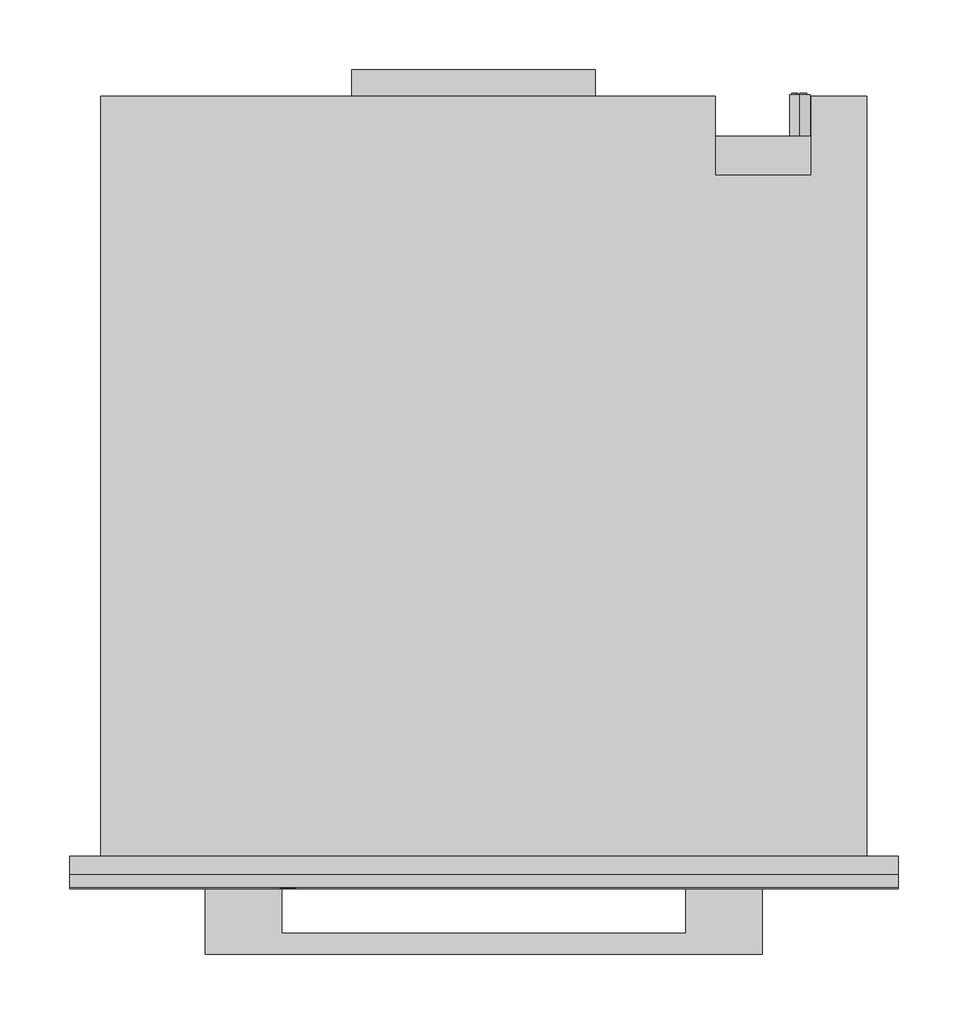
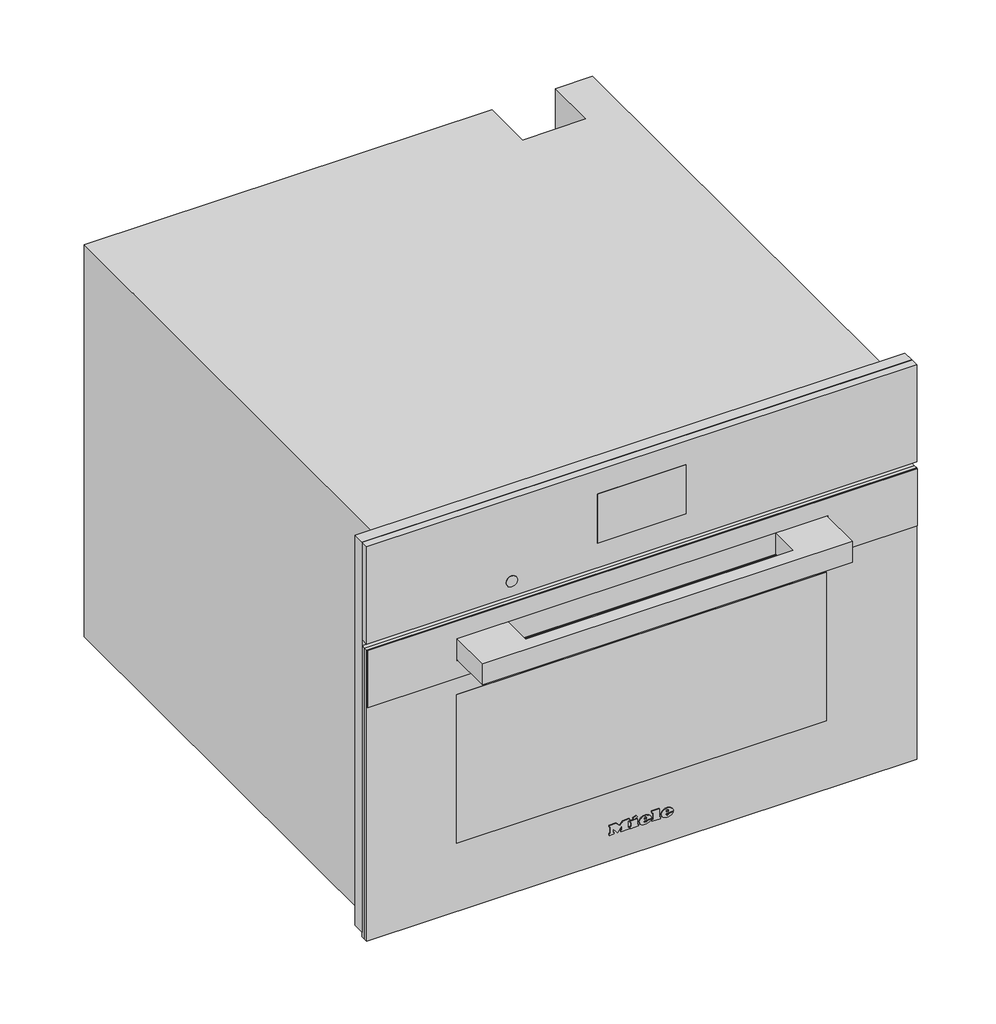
# Not in any storey: 1 proxy.
"""IFC4 building model written with IfcOpenShell, lengths in millimetres."""

import ifcopenshell
import ifcopenshell.guid

model = None  # the IFC model being written
_history = None  # IfcOwnerHistory: only IFC2X3 demands one
_inside = {}  # id of a spatial element -> (the spatial element, [elements in it])
_under = {}  # id of a project, library or spatial element -> (it, [spatial elements below it])
_declared = {}  # id of a project -> (the project, [libraries it declares])
_typed = {}  # id of a type object -> (the type object, [elements of that type])
_made_of = {}  # id of a material, layer set ... -> (it, [elements and type objects made of it])


def new_model(schema):
    """Start an empty IFC model of exactly this schema.

    Asked for "IFC4X3", IfcOpenShell would pick the latest addendum, in which some entities
    have other attributes; the version numbers below select the first issue.
    IFC2X3 requires an IfcOwnerHistory on every rooted entity: one is made here for all.
    """
    global model, _history
    if schema == "IFC4X3":
        model = ifcopenshell.file(schema_version=(4, 3, 0, 0))
    else:
        model = ifcopenshell.file(schema=schema)
    _inside.clear()
    _under.clear()
    _declared.clear()
    _typed.clear()
    _made_of.clear()
    _history = None
    if model.schema == "IFC2X3":
        org = make("IfcOrganization", Name="unknown")
        user = make(
            "IfcPersonAndOrganization",
            ThePerson=make("IfcPerson", FamilyName="unknown"),
            TheOrganization=org,
        )
        app = make(
            "IfcApplication",
            ApplicationDeveloper=org,
            Version="unknown",
            ApplicationFullName="unknown",
            ApplicationIdentifier="unknown",
        )
        _history = make(
            "IfcOwnerHistory",
            OwningUser=user,
            OwningApplication=app,
            ChangeAction="ADDED",
            CreationDate=0,
        )
    return model


def make(cls, **values):
    """One entity of the class cls with the attributes given. An attribute that is None is left unset."""
    return model.create_entity(
        cls, **{name: value for name, value in values.items() if value is not None}
    )


def rooted(cls, **values):
    """An entity with a GlobalId (a new one), such as an element, a storey or a relation."""
    return make(cls, GlobalId=ifcopenshell.guid.new(), OwnerHistory=_history, **values)


def si_unit(unit_type, name, prefix=None):
    """IfcSIUnit, for example si_unit("LENGTHUNIT", "METRE", prefix="MILLI")."""
    return make("IfcSIUnit", UnitType=unit_type, Prefix=prefix, Name=name)


def assignment(units):
    """IfcUnitAssignment: the units of a project."""
    return None if units is None else make("IfcUnitAssignment", Units=units)


def point(xyz):
    """IfcCartesianPoint."""
    return None if xyz is None else make("IfcCartesianPoint", Coordinates=xyz)


def direction(xyz):
    """IfcDirection."""
    return None if xyz is None else make("IfcDirection", DirectionRatios=xyz)


def frame(location, z_axis=None, x_axis=None):
    """IfcAxis2Placement3D, a coordinate frame: its origin and axes. An axis left out is left unset."""
    return make(
        "IfcAxis2Placement3D",
        Location=point(location),
        Axis=direction(z_axis),
        RefDirection=direction(x_axis),
    )


def frame_2d(location, x_axis=None):
    """IfcAxis2Placement2D, a coordinate frame in the plane: its origin and x axis."""
    return make(
        "IfcAxis2Placement2D", Location=point(location), RefDirection=direction(x_axis)
    )


def origin():
    """The frame at (0, 0, 0) with its axes left unset."""
    return frame((0.0, 0.0, 0.0))


def place(relative_to, where):
    """IfcLocalPlacement: puts the frame where relative to a parent placement (None: the world)."""
    return make(
        "IfcLocalPlacement", PlacementRelTo=relative_to, RelativePlacement=where
    )


def context(
    kind, dimensions, precision=None, world=None, true_north=None, identifier=None
):
    """IfcGeometricRepresentationContext, for example the 3D "Model" context."""
    return make(
        "IfcGeometricRepresentationContext",
        ContextIdentifier=identifier,
        ContextType=kind,
        CoordinateSpaceDimension=dimensions,
        Precision=precision,
        WorldCoordinateSystem=world,
        TrueNorth=true_north,
    )


def project(units=None, contexts=None):
    """IfcProject with its units and contexts."""
    return rooted(
        "IfcProject",
        Name="project",
        RepresentationContexts=contexts,
        UnitsInContext=assignment(units),
    )


def spatial(cls, under=None, at=None, **own):
    """A site, building, storey or space (cls), placed at a placement, below another one or the project."""
    s = rooted(cls, ObjectPlacement=at, **own)
    if under is not None:
        _under.setdefault(under.id(), (under, []))[1].append(s)
    return s


def polyline(points):
    """IfcPolyline through the points."""
    return make("IfcPolyline", Points=[point(p) for p in points])


def circle_curve(where, radius):
    """IfcCircle in the frame where."""
    return make("IfcCircle", Position=where, Radius=radius)


def ellipse_curve(where, semi_axis1, semi_axis2):
    """IfcEllipse in the frame where."""
    return make(
        "IfcEllipse", Position=where, SemiAxis1=semi_axis1, SemiAxis2=semi_axis2
    )


def trimmed(basis, trim1, trim2, sense, master):
    """IfcTrimmedCurve: the piece of a basis curve between two trims."""
    return make(
        "IfcTrimmedCurve",
        BasisCurve=basis,
        Trim1=trim1,
        Trim2=trim2,
        SenseAgreement=sense,
        MasterRepresentation=master,
    )


def segment(curve, same_sense, transition):
    """IfcCompositeCurveSegment."""
    return make(
        "IfcCompositeCurveSegment",
        Transition=transition,
        SameSense=same_sense,
        ParentCurve=curve,
    )


def composite_curve(segments, self_intersect=None):
    """IfcCompositeCurve: segments joined end to end."""
    return make("IfcCompositeCurve", Segments=segments, SelfIntersect=self_intersect)


def outline(outer, holes=None, kind="AREA"):
    """IfcArbitraryClosedProfileDef: a profile drawn as a closed curve; with holes, ...WithVoids."""
    if holes is None:
        return make("IfcArbitraryClosedProfileDef", ProfileType=kind, OuterCurve=outer)
    return make(
        "IfcArbitraryProfileDefWithVoids",
        ProfileType=kind,
        OuterCurve=outer,
        InnerCurves=holes,
    )


def extrude(swept, where, along, depth):
    """IfcExtrudedAreaSolid: the profile swept, set in the frame where, extruded along a direction by depth."""
    return make(
        "IfcExtrudedAreaSolid",
        SweptArea=swept,
        Position=where,
        ExtrudedDirection=direction(along),
        Depth=depth,
    )


def faces_of(points, faces, orient=None, outer=None):
    """IfcFace entities. A face is a list of loops; a loop is a list of indices into points, from 0.

    orient and outer hold one flag for each loop. By default every Orientation is true, the
    first loop of a face is its IfcFaceOuterBound and the others are IfcFaceBound.
    """
    made = []
    for i, loops in enumerate(faces):
        bounds = []
        for j, loop in enumerate(loops):
            is_outer = j == 0 if outer is None else outer[i][j]
            bounds.append(
                make(
                    "IfcFaceOuterBound" if is_outer else "IfcFaceBound",
                    Bound=make("IfcPolyLoop", Polygon=[points[k] for k in loop]),
                    Orientation=True if orient is None else orient[i][j],
                )
            )
        made.append(make("IfcFace", Bounds=bounds))
    return made


def faceted_brep(points, faces, orient=None, outer=None, voids=None):
    """IfcFacetedBrep: a solid bounded by flat faces; with voids (closed shells), ...WithVoids."""
    shared = [point(p) for p in points]
    hull = make("IfcClosedShell", CfsFaces=faces_of(shared, faces, orient, outer))
    if voids is None:
        return make("IfcFacetedBrep", Outer=hull)
    return make(
        "IfcFacetedBrepWithVoids",
        Outer=hull,
        Voids=[
            make(cls, CfsFaces=faces_of(shared, fs, o, b)) for cls, fs, o, b in voids
        ],
    )


def shape(context_of_items, identifier, shape_type, items):
    """IfcShapeRepresentation: the items that make up one representation, for example the "Body"."""
    return make(
        "IfcShapeRepresentation",
        ContextOfItems=context_of_items,
        RepresentationIdentifier=identifier,
        RepresentationType=shape_type,
        Items=items,
    )


def source(mapping_origin, context_of_items, identifier, shape_type, items):
    """IfcRepresentationMap: a shape defined once, which mapped items show again and again."""
    return make(
        "IfcRepresentationMap",
        MappingOrigin=mapping_origin,
        MappedRepresentation=shape(context_of_items, identifier, shape_type, items),
    )


def transform(
    local_origin,
    x_axis=None,
    y_axis=None,
    z_axis=None,
    scale=None,
    scale2=None,
    scale3=None,
    uniform=True,
):
    """IfcCartesianTransformationOperator3D, or its non-uniform kind. x_axis, y_axis, z_axis: its Axis1, 2, 3."""
    if uniform:
        return make(
            "IfcCartesianTransformationOperator3D",
            Axis1=direction(x_axis),
            Axis2=direction(y_axis),
            LocalOrigin=point(local_origin),
            Scale=scale,
            Axis3=direction(z_axis),
        )
    return make(
        "IfcCartesianTransformationOperator3DnonUniform",
        Axis1=direction(x_axis),
        Axis2=direction(y_axis),
        LocalOrigin=point(local_origin),
        Scale=scale,
        Axis3=direction(z_axis),
        Scale2=scale2,
        Scale3=scale3,
    )


def mapped(mapping_source, mapping_target):
    """IfcMappedItem: shows the shape of a source again, moved by a transform."""
    return make(
        "IfcMappedItem", MappingSource=mapping_source, MappingTarget=mapping_target
    )


def made_of(thing, what):
    """Note that an element or type object is made of a material, layer set ...; save() writes the relation."""
    if what is not None:
        _made_of.setdefault(what.id(), (what, []))[1].append(thing)
    return thing


def element(
    cls,
    number,
    at=None,
    inside=None,
    cuts=None,
    type_object=None,
    material=None,
    context=None,
    identifier="Body",
    shape_type=None,
    held_by="IfcProductDefinitionShape",
    body=None,
    shapes=None,
    **own,
):
    """One element of the class cls, such as IfcWall. Its Tag is "e" and its number.

    at: its placement. inside: the storey or other place that contains it. cuts: it is an
    opening in that element (IfcRelVoidsElement). A single representation is given by context,
    identifier, shape_type and body (its items); several are given by shapes. held_by: the class
    of the entity that holds the representations. save() writes the other relations.
    """
    e = rooted(cls, Tag="e%d" % number, ObjectPlacement=at, **own)
    if body is not None:
        shapes = [shape(context, identifier, shape_type, body)]
    if shapes is not None:
        e.Representation = make(held_by, Representations=shapes)
    if inside is not None:
        _inside.setdefault(inside.id(), (inside, []))[1].append(e)
    if cuts is not None:
        rooted(
            "IfcRelVoidsElement", RelatingBuildingElement=cuts, RelatedOpeningElement=e
        )
    if type_object is not None:
        _typed.setdefault(type_object.id(), (type_object, []))[1].append(e)
    return made_of(e, material)


def aggregate(whole, parts):
    """IfcRelAggregates: a whole, such as a stair, and the parts it consists of."""
    return rooted("IfcRelAggregates", RelatingObject=whole, RelatedObjects=parts)


def save(model, path):
    """Write the relations noted so far, then the file.

    IfcRelAggregates (storeys below a building ...), IfcRelContainedInSpatialStructure (elements
    in a storey), IfcRelDefinesByType, IfcRelAssociatesMaterial and IfcRelDeclares: one each for
    every whole, place, type object, material and project.
    """
    for whole, parts in _under.values():
        aggregate(whole, parts)
    for where, things in _inside.values():
        rooted(
            "IfcRelContainedInSpatialStructure",
            RelatedElements=things,
            RelatingStructure=where,
        )
    for kind, things in _typed.values():
        rooted("IfcRelDefinesByType", RelatedObjects=things, RelatingType=kind)
    for what, things in _made_of.values():
        rooted("IfcRelAssociatesMaterial", RelatedObjects=things, RelatingMaterial=what)
    for by, libraries in _declared.values():
        rooted("IfcRelDeclares", RelatingContext=by, RelatedDefinitions=libraries)
    model.write(path)


def plane_surface(at):
    """IfcPlane: the flat surface through the origin of the frame at, square to its z axis."""
    return make("IfcPlane", Position=at)


def cylinder_surface(at, radius):
    """IfcCylindricalSurface: all points at the distance radius from the z axis of the frame at."""
    return make("IfcCylindricalSurface", Position=at, Radius=radius)


def revolved_surface(curve, axis_point, axis_direction):
    """IfcSurfaceOfRevolution: the curve turned about the line through axis_point along axis_direction."""
    return make(
        "IfcSurfaceOfRevolution",
        SweptCurve=make("IfcArbitraryOpenProfileDef", ProfileType="CURVE", Curve=curve),
        AxisPosition=make("IfcAxis1Placement", Location=point(axis_point), Axis=direction(axis_direction)),
    )


def extruded_surface(curve, direction_of_extrusion, depth):
    """IfcSurfaceOfLinearExtrusion: the curve pushed along a direction by depth."""
    return make(
        "IfcSurfaceOfLinearExtrusion",
        SweptCurve=make("IfcArbitraryOpenProfileDef", ProfileType="CURVE", Curve=curve),
        ExtrudedDirection=direction(direction_of_extrusion),
        Depth=depth,
    )


def advanced_brep(points, edges, surfaces, faces):
    """IfcAdvancedBrep: a solid bounded by faces that lie on surfaces and meet in shared edges.

    An edge is (start, end): straight between two places in points (the first is 0);
    or (start, end, curve); or (start, end, curve, False) where it runs against its curve.
    A face is (place in surfaces, loops), or (place, loops, False) where it looks against
    its surface's normal. A loop lists edges by number (the first is 1), with a minus sign
    where the edge is run from its end to its start. The first loop is the outer one.
    """
    corners = [point(p) for p in points]
    vertices = [make("IfcVertexPoint", VertexGeometry=c) for c in corners]
    made = []
    for start, end, *more in edges:
        made.append(
            make(
                "IfcEdgeCurve",
                EdgeStart=vertices[start],
                EdgeEnd=vertices[end],
                EdgeGeometry=more[0] if more else make("IfcPolyline", Points=[corners[start], corners[end]]),
                SameSense=more[1] if len(more) > 1 else True,
            )
        )
    hull = []
    for where, loops, *sense in faces:
        bounds = []
        for j, loop in enumerate(loops):
            ring = [make("IfcOrientedEdge", EdgeElement=made[abs(k) - 1], Orientation=k > 0) for k in loop]
            bounds.append(
                make(
                    "IfcFaceOuterBound" if j == 0 else "IfcFaceBound",
                    Bound=make("IfcEdgeLoop", EdgeList=ring),
                    Orientation=True,
                )
            )
        hull.append(make("IfcAdvancedFace", Bounds=bounds, FaceSurface=surfaces[where], SameSense=sense[0] if sense else True))
    return make("IfcAdvancedBrep", Outer=make("IfcClosedShell", CfsFaces=hull))


def specialty_equipment_7466eaa1(model_context):
    return source(origin(), model_context, "Body", "SolidModel", [
        extrude(outline(polyline([(455.0, 297.5), (455.0, -297.5), (9.0, -297.5), (9.0, 297.5), (455.0, 297.5)]), holes=[polyline([(344.0, -272.5), (344.0, 272.5), (27.0, 272.5), (27.0, -272.5), (344.0, -272.5)])]), frame((0.0, -13.0, 0.0), z_axis=(0.0, 1.0, 0.0), x_axis=(0.0, 0.0, 1.0)), (0.0, 0.0, 1.0), 13.0),
        extrude(outline(polyline([(-95.0, 565.0), (80.0, 565.0), (80.0, 546.0), (-95.0, 546.0), (-95.0, 565.0)])), frame((0.0, 0.0, 260.0), z_axis=(0.0, 0.0, 1.0), x_axis=(1.0, 0.0, 0.0)), (0.0, 0.0, 1.0), 1.0),
        advanced_brep(
        [(227.0, 547.0, 255.5), (227.0, 547.0, 240.5), (221.4098301, 547.0, 243.0), (225.5, 547.0, 243.0), (225.5, 547.0, 253.0), (224.4955303, 547.0, 253.0), (224.4955303, 547.0, 244.0), (221.0315043, 547.0, 244.0), (221.0315043, 547.0, 243.4582978), (232.0, 547.0, 243.0), (232.0, 547.0, 253.0), (227.0, 547.0, 253.0), (227.0, 547.0, 252.0), (231.0, 547.0, 252.0), (231.0, 547.0, 248.5), (228.0, 547.0, 248.5), (228.0, 547.0, 247.5), (231.0, 547.0, 247.5), (231.0, 547.0, 244.0), (227.0, 547.0, 244.0), (227.0, 547.0, 243.0), (227.0, 517.0, 240.5), (227.0, 517.0, 255.5), (232.0, 548.0, 253.0), (232.0, 548.0, 243.0), (227.0, 548.0, 243.0), (227.0, 548.0, 244.0), (231.0, 548.0, 244.0), (231.0, 548.0, 247.5), (228.0, 548.0, 247.5), (228.0, 548.0, 248.5), (231.0, 548.0, 248.5), (231.0, 548.0, 252.0), (227.0, 548.0, 252.0), (227.0, 548.0, 253.0), (225.5, 548.0, 243.0), (221.0315043, 548.0, 243.0), (221.0315043, 548.0, 244.0), (224.4955303, 548.0, 244.0), (224.4955303, 548.0, 253.0), (225.5, 548.0, 253.0), (221.0315043, 547.0, 243.0)],
        [
            (0, 1, circle_curve(frame((227.0, 547.0, 248.0), z_axis=(0.0, 1.0, 0.0), x_axis=(0.0, 0.0, 1.0)), 7.5)),
            (1, 2, circle_curve(frame((227.0, 547.0, 248.0), z_axis=(0.0, 1.0, 0.0), x_axis=(0.0, 0.0, 1.0)), 7.5)),
            (2, 3),
            (3, 4),
            (4, 5),
            (5, 6),
            (6, 7),
            (7, 8),
            (8, 0, circle_curve(frame((227.0, 547.0, 248.0), z_axis=(0.0, 1.0, 0.0), x_axis=(0.0, 0.0, 1.0)), 7.5)),
            (9, 10),
            (10, 11),
            (11, 12),
            (12, 13),
            (13, 14),
            (14, 15),
            (15, 16),
            (16, 17),
            (17, 18),
            (18, 19),
            (19, 20),
            (20, 9),
            (21, 22, circle_curve(frame((227.0, 517.0, 248.0), z_axis=(0.0, -1.0, 0.0), x_axis=(0.0, 0.0, 1.0)), 7.5)),
            (22, 21, circle_curve(frame((227.0, 517.0, 248.0), z_axis=(0.0, -1.0, 0.0), x_axis=(0.0, 0.0, 1.0)), 7.5)),
            (0, 22),
            (21, 1),
            (8, 2, circle_curve(frame((227.0, 547.0, 248.0), z_axis=(0.0, -1.0, 0.0), x_axis=(0.0, 0.0, 1.0)), 7.5)),
            (23, 24),
            (24, 25),
            (25, 26),
            (26, 27),
            (27, 28),
            (28, 29),
            (29, 30),
            (30, 31),
            (31, 32),
            (32, 33),
            (33, 34),
            (34, 23),
            (35, 36),
            (36, 37),
            (37, 38),
            (38, 39),
            (39, 40),
            (40, 35),
            (8, 41),
            (41, 2),
            (23, 10),
            (9, 24),
            (20, 25),
            (19, 26),
            (18, 27),
            (17, 28),
            (16, 29),
            (15, 30),
            (14, 31),
            (13, 32),
            (12, 33),
            (11, 34),
            (35, 3),
            (41, 36),
            (7, 37),
            (6, 38),
            (5, 39),
            (4, 40),
        ],
        [
            plane_surface(frame((227.0, 547.0, 255.5), z_axis=(0.0, 1.0, 0.0), x_axis=(1.0, 0.0, 0.0))),
            plane_surface(frame((227.0, 517.0, 255.5), z_axis=(0.0, -1.0, 0.0), x_axis=(-1.0, 0.0, 0.0))),
            cylinder_surface(frame((227.0, 547.0, 248.0), z_axis=(0.0, -1.0, 0.0), x_axis=(0.0, 0.0, 1.0)), 7.5),
            plane_surface(frame((232.0, 548.0, 253.0), z_axis=(0.0, 1.0, 0.0), x_axis=(0.0, 0.0, -1.0))),
            plane_surface(frame((232.0, 547.0, 253.0), z_axis=(0.0, -1.0, 0.0), x_axis=(0.0, 0.0, 1.0))),
            plane_surface(frame((232.0, 548.0, 253.0), z_axis=(1.0, 0.0, 0.0), x_axis=(0.0, -1.0, 0.0))),
            plane_surface(frame((232.0, 548.0, 243.0), z_axis=(0.0, 0.0, -1.0), x_axis=(0.0, -1.0, 0.0))),
            plane_surface(frame((227.0, 548.0, 243.0), z_axis=(-1.0, 0.0, 0.0), x_axis=(0.0, -1.0, 0.0))),
            plane_surface(frame((227.0, 548.0, 244.0), z_axis=(0.0, 0.0, 1.0), x_axis=(0.0, -1.0, 0.0))),
            plane_surface(frame((231.0, 548.0, 244.0), z_axis=(-1.0, 0.0, 0.0), x_axis=(0.0, -1.0, 0.0))),
            plane_surface(frame((231.0, 548.0, 247.5), z_axis=(0.0, 0.0, -1.0), x_axis=(0.0, -1.0, 0.0))),
            plane_surface(frame((228.0, 548.0, 247.5), z_axis=(-1.0, 0.0, 0.0), x_axis=(0.0, -1.0, 0.0))),
            plane_surface(frame((228.0, 548.0, 248.5), z_axis=(0.0, 0.0, 1.0), x_axis=(0.0, -1.0, 0.0))),
            plane_surface(frame((231.0, 548.0, 248.5), z_axis=(-1.0, 0.0, 0.0), x_axis=(0.0, -1.0, 0.0))),
            plane_surface(frame((231.0, 548.0, 252.0), z_axis=(0.0, 0.0, -1.0), x_axis=(0.0, -1.0, 0.0))),
            plane_surface(frame((227.0, 548.0, 252.0), z_axis=(-1.0, 0.0, 0.0), x_axis=(0.0, -1.0, 0.0))),
            plane_surface(frame((227.0, 548.0, 253.0), z_axis=(0.0, 0.0, 1.0), x_axis=(0.0, -1.0, 0.0))),
            plane_surface(frame((225.5, 548.0, 243.0), z_axis=(0.0, 0.0, -1.0), x_axis=(0.0, -1.0, 0.0))),
            plane_surface(frame((221.0315043, 548.0, 243.0), z_axis=(-1.0, 0.0, 0.0), x_axis=(0.0, -1.0, 0.0))),
            plane_surface(frame((221.0315043, 548.0, 244.0), z_axis=(0.0, 0.0, 1.0), x_axis=(0.0, -1.0, 0.0))),
            plane_surface(frame((224.4955303, 548.0, 244.0), z_axis=(-1.0, 0.0, 0.0), x_axis=(0.0, -1.0, 0.0))),
            plane_surface(frame((224.4955303, 548.0, 253.0), z_axis=(0.0, 0.0, 1.0), x_axis=(0.0, -1.0, 0.0))),
            plane_surface(frame((225.5, 548.0, 253.0), z_axis=(1.0, 0.0, 0.0), x_axis=(0.0, -1.0, 0.0))),
        ],
        [
            (0, [[1, 2, 3, 4, 5, 6, 7, 8, 9], [10, 11, 12, 13, 14, 15, 16, 17, 18, 19, 20, 21]]),
            (1, [[22, 23]]),
            (2, [[-1, 24, -22, 25]]),
            (2, [[-23, -24, -9, 26, -2, -25]]),
            (3, [[27, 28, 29, 30, 31, 32, 33, 34, 35, 36, 37, 38]]),
            (3, [[39, 40, 41, 42, 43, 44]]),
            (4, [[45, 46, -26]]),
            (5, [[-27, 47, -10, 48]]),
            (6, [[-28, -48, -21, 49]]),
            (7, [[-29, -49, -20, 50]]),
            (8, [[-30, -50, -19, 51]]),
            (9, [[-31, -51, -18, 52]]),
            (10, [[-32, -52, -17, 53]]),
            (11, [[-33, -53, -16, 54]]),
            (12, [[-34, -54, -15, 55]]),
            (13, [[-35, -55, -14, 56]]),
            (14, [[-36, -56, -13, 57]]),
            (15, [[-37, -57, -12, 58]]),
            (16, [[-38, -58, -11, -47]]),
            (17, [[-39, 59, -3, -46, 60]]),
            (18, [[-40, -60, -45, -8, 61]]),
            (19, [[-41, -61, -7, 62]]),
            (20, [[-42, -62, -6, 63]]),
            (21, [[-43, -63, -5, 64]]),
            (22, [[-44, -64, -4, -59]]),
        ],
    ),
        faceted_brep([(-275.0, 546.0, 0.0), (-275.0, 546.0, 448.0), (166.0, 546.0, 448.0), (166.0, 546.0, 0.0), (235.0, 546.0, 448.0), (275.0, 546.0, 448.0), (275.0, 546.0, 338.0), (235.0, 546.0, 338.0), (275.0, 0.0, 448.0), (-275.0, 0.0, 448.0), (-275.0, 0.0, 0.0), (275.0, 0.0, 0.0), (-272.5, 0.0, 344.0), (272.5, 0.0, 344.0), (272.5, 0.0, 27.0), (-272.5, 0.0, 27.0), (235.0, 489.0, 448.0), (166.0, 489.0, 448.0), (166.0, 517.0, 0.0), (275.0, 517.0, 0.0), (275.0, 517.0, 338.0), (272.5, 17.0, 344.0), (-272.5, 17.0, 344.0), (-272.5, 17.0, 27.0), (272.5, 17.0, 27.0), (231.0, 17.0, 307.0), (231.0, 17.0, 65.0), (-231.0, 17.0, 65.0), (-231.0, 17.0, 307.0), (231.0, 411.0, 307.0), (-231.0, 411.0, 307.0), (-231.0, 411.0, 65.0), (231.0, 411.0, 65.0), (235.0, 489.0, 337.0), (166.0, 489.0, 337.0), (166.0, 517.0, 337.0), (235.0, 517.0, 337.0), (235.0, 517.0, 338.0)], [[[0, 1, 2, 3]], [[4, 5, 6, 7]], [[8, 9, 10, 11], [12, 13, 14, 15]], [[9, 8, 5, 4, 16, 17, 2, 1]], [[1, 0, 10, 9]], [[11, 10, 0, 3, 18, 19]], [[8, 11, 19, 20, 6, 5]], [[21, 22, 23, 24], [25, 26, 27, 28]], [[22, 21, 13, 12]], [[23, 22, 12, 15]], [[24, 23, 15, 14]], [[21, 24, 14, 13]], [[29, 30, 31, 32]], [[29, 32, 26, 25]], [[32, 31, 27, 26]], [[31, 30, 28, 27]], [[30, 29, 25, 28]], [[16, 33, 34, 17]], [[17, 34, 35, 18, 3, 2]], [[34, 33, 36, 35]], [[33, 16, 4, 7, 37, 36]], [[37, 20, 19, 18, 35, 36]], [[20, 37, 7, 6]]]),
        advanced_brep(
        [(26.2998, -23.0, 36.7018), (26.2998, -23.0, 37.8532), (33.9264, -23.0, 37.8532), (20.6568, -23.0, 37.8532), (23.7918, -23.0, 34.0), (33.7326, -23.0, 36.7018), (30.2898, -23.0, 36.7018), (27.5766, -23.0, 35.425), (26.2998, -23.0, 39.3124), (26.2998, -23.0, 40.555), (28.2492, -23.0, 40.555), (28.2492, -23.0, 39.3124), (26.2998, -22.0, 36.7018), (27.5766, -22.0, 35.425), (30.2898, -22.0, 36.7018), (33.7326, -22.0, 36.7018), (23.7918, -22.0, 34.0), (20.6568, -22.0, 37.8532), (33.9264, -22.0, 37.8532), (26.2998, -22.0, 37.8532), (26.2998, -22.0, 39.3124), (28.2492, -22.0, 39.3124), (28.2492, -22.0, 40.555), (26.2998, -22.0, 40.555)],
        [
            (0, 1),
            (1, 2),
            (2, 3, ellipse_curve(frame((27.2916, -23.0, 37.8532), z_axis=(0.0, -1.0, 0.0), x_axis=(-1.0, 0.0, 0.0)), 6.6348, 5.4834)),
            (3, 4, circle_curve(frame((25.0686622, -23.0, 38.2408), z_axis=(0.0, -1.0, 0.0), x_axis=(0.0, 0.0, -1.0)), 4.4288556)),
            (4, 5, circle_curve(frame((27.1587808, -23.0, 41.2504), z_axis=(0.0, -1.0, 0.0), x_axis=(0.0, 0.0, -1.0)), 7.9940516)),
            (5, 6),
            (6, 7, circle_curve(frame((28.1338588, -23.0, 37.762), z_axis=(0.0, 1.0, 0.0), x_axis=(0.0, 0.0, -1.0)), 2.4025208)),
            (7, 0, circle_curve(frame((27.5766, -23.0, 36.7018), z_axis=(0.0, 1.0, 0.0), x_axis=(0.0, 0.0, -1.0)), 1.2768)),
            (8, 9),
            (9, 10, circle_curve(frame((27.2745, -23.0, 40.555), z_axis=(0.0, 1.0, 0.0), x_axis=(0.0, 0.0, -1.0)), 0.9747)),
            (10, 11),
            (11, 8),
            (12, 13, circle_curve(frame((27.5766, -22.0, 36.7018), z_axis=(0.0, -1.0, 0.0), x_axis=(0.0, 0.0, -1.0)), 1.2768)),
            (13, 14, circle_curve(frame((28.1338588, -22.0, 37.762), z_axis=(0.0, -1.0, 0.0), x_axis=(0.0, 0.0, -1.0)), 2.4025208)),
            (14, 15),
            (15, 16, circle_curve(frame((27.1587808, -22.0, 41.2504), z_axis=(0.0, 1.0, 0.0), x_axis=(0.0, 0.0, -1.0)), 7.9940516)),
            (16, 17, circle_curve(frame((25.0686622, -22.0, 38.2408), z_axis=(0.0, 1.0, 0.0), x_axis=(0.0, 0.0, -1.0)), 4.4288556)),
            (17, 18, ellipse_curve(frame((27.2916, -22.0, 37.8532), z_axis=(0.0, 1.0, 0.0), x_axis=(-1.0, 0.0, 0.0)), 6.6348, 5.4834)),
            (18, 19),
            (19, 12),
            (20, 21),
            (21, 22),
            (22, 23, circle_curve(frame((27.2745, -22.0, 40.555), z_axis=(0.0, -1.0, 0.0), x_axis=(0.0, 0.0, -1.0)), 0.9747)),
            (23, 20),
            (0, 12),
            (19, 1),
            (18, 2),
            (5, 15),
            (14, 6),
            (17, 3),
            (13, 7),
            (16, 4),
            (8, 20),
            (23, 9),
            (22, 10),
            (21, 11),
        ],
        [
            plane_surface(frame((26.2998, -23.0, 37.8532), z_axis=(0.0, -1.0, 0.0), x_axis=(0.0, 0.0, 1.0))),
            plane_surface(frame((26.2998, -22.0, 37.8532), z_axis=(0.0, 1.0, 0.0), x_axis=(0.0, 0.0, -1.0))),
            plane_surface(frame((26.2998, -23.0, 36.7018), z_axis=(1.0, 0.0, 0.0), x_axis=(0.0, 1.0, 0.0))),
            plane_surface(frame((26.2998, -23.0, 37.8532), z_axis=(0.0, 0.0, -1.0), x_axis=(0.0, 1.0, 0.0))),
            plane_surface(frame((33.7326, -23.0, 36.7018), z_axis=(0.0, 0.0, 1.0), x_axis=(0.0, 1.0, 0.0))),
            extruded_surface(trimmed(ellipse_curve(frame((27.2916, -21.0, 37.8532), z_axis=(0.0, -1.0, 0.0), x_axis=(-1.0, 0.0, 0.0)), 6.6348, 5.4834), [point((33.9264, -21.0, 37.8532))], [point((20.6568, -21.0, 37.8532))], True, "CARTESIAN"), (0.0, -1.0, 0.0), 1.0),
            revolved_surface(polyline([(28.1338588, -22.0, 35.3594792), (28.1338588, -23.0, 35.3594792)]), (28.1338588, -22.0, 37.762), (0.0, 1.0, 0.0)),
            revolved_surface(polyline([(27.5766, -22.0, 35.425), (27.5766, -23.0, 35.425)]), (27.5766, -22.0, 36.7018), (0.0, 1.0, 0.0)),
            cylinder_surface(frame((25.0686622, -22.0, 38.2408), z_axis=(0.0, -1.0, 0.0), x_axis=(0.0, 0.0, -1.0)), 4.4288556),
            cylinder_surface(frame((27.1587808, -22.0, 41.2504), z_axis=(0.0, -1.0, 0.0), x_axis=(0.0, 0.0, -1.0)), 7.9940516),
            plane_surface(frame((26.2998, -23.0, 39.3124), z_axis=(1.0, 0.0, 0.0), x_axis=(0.0, 1.0, 0.0))),
            revolved_surface(polyline([(27.2745, -22.0, 39.5803), (27.2745, -23.0, 39.5803)]), (27.2745, -22.0, 40.555), (0.0, 1.0, 0.0)),
            plane_surface(frame((28.2492, -23.0, 40.555), z_axis=(-1.0, 0.0, 0.0), x_axis=(0.0, 1.0, 0.0))),
            plane_surface(frame((28.2492, -23.0, 39.3124), z_axis=(0.0, 0.0, 1.0), x_axis=(0.0, 1.0, 0.0))),
        ],
        [
            (0, [[1, 2, 3, 4, 5, 6, 7, 8], [9, 10, 11, 12]]),
            (1, [[13, 14, 15, 16, 17, 18, 19, 20], [21, 22, 23, 24]]),
            (2, [[-1, 25, -20, 26]]),
            (3, [[-2, -26, -19, 27]]),
            (4, [[-6, 28, -15, 29]]),
            (5, [[-3, -27, -18, 30]]),
            (6, [[-7, -29, -14, 31]]),
            (7, [[-8, -31, -13, -25]]),
            (8, [[-4, -30, -17, 32]]),
            (9, [[-5, -32, -16, -28]]),
            (10, [[-9, 33, -24, 34]]),
            (11, [[-10, -34, -23, 35]]),
            (12, [[-11, -35, -22, 36]]),
            (13, [[-12, -36, -21, -33]]),
        ],
    ),
        advanced_brep(
        [(2.508, -23.0, 36.7018), (2.508, -23.0, 37.8532), (10.1346, -23.0, 37.8532), (-3.135, -23.0, 37.8532), (0.0, -23.0, 34.0), (9.9408, -23.0, 36.7018), (6.498, -23.0, 36.7018), (3.7848, -23.0, 35.425), (2.508, -23.0, 39.3124), (2.508, -23.0, 40.555), (4.4574, -23.0, 40.555), (4.4574, -23.0, 39.3124), (2.508, -22.0, 36.7018), (3.7848, -22.0, 35.425), (6.498, -22.0, 36.7018), (9.9408, -22.0, 36.7018), (0.0, -22.0, 34.0), (-3.135, -22.0, 37.8532), (10.1346, -22.0, 37.8532), (2.508, -22.0, 37.8532), (2.508, -22.0, 39.3124), (4.4574, -22.0, 39.3124), (4.4574, -22.0, 40.555), (2.508, -22.0, 40.555)],
        [
            (0, 1),
            (1, 2),
            (2, 3, ellipse_curve(frame((3.4998, -23.0, 37.8532), z_axis=(0.0, -1.0, 0.0), x_axis=(-1.0, 0.0, 0.0)), 6.6348, 5.4834)),
            (3, 4, circle_curve(frame((1.2768622, -23.0, 38.2408), z_axis=(0.0, -1.0, 0.0), x_axis=(0.0, 0.0, -1.0)), 4.4288556)),
            (4, 5, circle_curve(frame((3.3669808, -23.0, 41.2504), z_axis=(0.0, -1.0, 0.0), x_axis=(0.0, 0.0, -1.0)), 7.9940516)),
            (5, 6),
            (6, 7, circle_curve(frame((4.3420588, -23.0, 37.762), z_axis=(0.0, 1.0, 0.0), x_axis=(0.0, 0.0, -1.0)), 2.4025208)),
            (7, 0, circle_curve(frame((3.7848, -23.0, 36.7018), z_axis=(0.0, 1.0, 0.0), x_axis=(0.0, 0.0, -1.0)), 1.2768)),
            (8, 9),
            (9, 10, circle_curve(frame((3.4827, -23.0, 40.555), z_axis=(0.0, 1.0, 0.0), x_axis=(0.0, 0.0, -1.0)), 0.9747)),
            (10, 11),
            (11, 8),
            (12, 13, circle_curve(frame((3.7848, -22.0, 36.7018), z_axis=(0.0, -1.0, 0.0), x_axis=(0.0, 0.0, -1.0)), 1.2768)),
            (13, 14, circle_curve(frame((4.3420588, -22.0, 37.762), z_axis=(0.0, -1.0, 0.0), x_axis=(0.0, 0.0, -1.0)), 2.4025208)),
            (14, 15),
            (15, 16, circle_curve(frame((3.3669808, -22.0, 41.2504), z_axis=(0.0, 1.0, 0.0), x_axis=(0.0, 0.0, -1.0)), 7.9940516)),
            (16, 17, circle_curve(frame((1.2768622, -22.0, 38.2408), z_axis=(0.0, 1.0, 0.0), x_axis=(0.0, 0.0, -1.0)), 4.4288556)),
            (17, 18, ellipse_curve(frame((3.4998, -22.0, 37.8532), z_axis=(0.0, 1.0, 0.0), x_axis=(-1.0, 0.0, 0.0)), 6.6348, 5.4834)),
            (18, 19),
            (19, 12),
            (20, 21),
            (21, 22),
            (22, 23, circle_curve(frame((3.4827, -22.0, 40.555), z_axis=(0.0, -1.0, 0.0), x_axis=(0.0, 0.0, -1.0)), 0.9747)),
            (23, 20),
            (0, 12),
            (19, 1),
            (18, 2),
            (5, 15),
            (14, 6),
            (17, 3),
            (13, 7),
            (16, 4),
            (8, 20),
            (23, 9),
            (22, 10),
            (21, 11),
        ],
        [
            plane_surface(frame((2.508, -23.0, 37.8532), z_axis=(0.0, -1.0, 0.0), x_axis=(0.0, 0.0, 1.0))),
            plane_surface(frame((2.508, -22.0, 37.8532), z_axis=(0.0, 1.0, 0.0), x_axis=(0.0, 0.0, -1.0))),
            plane_surface(frame((2.508, -23.0, 36.7018), z_axis=(1.0, 0.0, 0.0), x_axis=(0.0, 1.0, 0.0))),
            plane_surface(frame((2.508, -23.0, 37.8532), z_axis=(0.0, 0.0, -1.0), x_axis=(0.0, 1.0, 0.0))),
            plane_surface(frame((9.9408, -23.0, 36.7018), z_axis=(0.0, 0.0, 1.0), x_axis=(0.0, 1.0, 0.0))),
            extruded_surface(trimmed(ellipse_curve(frame((3.4998, -21.0, 37.8532), z_axis=(0.0, -1.0, 0.0), x_axis=(-1.0, 0.0, 0.0)), 6.6348, 5.4834), [point((10.1346, -21.0, 37.8532))], [point((-3.135, -21.0, 37.8532))], True, "CARTESIAN"), (0.0, -1.0, 0.0), 1.0),
            revolved_surface(polyline([(4.3420588, -22.0, 35.3594792), (4.3420588, -23.0, 35.3594792)]), (4.3420588, -22.0, 37.762), (0.0, 1.0, 0.0)),
            revolved_surface(polyline([(3.7848, -22.0, 35.425), (3.7848, -23.0, 35.425)]), (3.7848, -22.0, 36.7018), (0.0, 1.0, 0.0)),
            cylinder_surface(frame((1.2768622, -22.0, 38.2408), z_axis=(0.0, -1.0, 0.0), x_axis=(0.0, 0.0, -1.0)), 4.4288556),
            cylinder_surface(frame((3.3669808, -22.0, 41.2504), z_axis=(0.0, -1.0, 0.0), x_axis=(0.0, 0.0, -1.0)), 7.9940516),
            plane_surface(frame((2.508, -23.0, 39.3124), z_axis=(1.0, 0.0, 0.0), x_axis=(0.0, 1.0, 0.0))),
            revolved_surface(polyline([(3.4827, -22.0, 39.5803), (3.4827, -23.0, 39.5803)]), (3.4827, -22.0, 40.555), (0.0, 1.0, 0.0)),
            plane_surface(frame((4.4574, -23.0, 40.555), z_axis=(-1.0, 0.0, 0.0), x_axis=(0.0, 1.0, 0.0))),
            plane_surface(frame((4.4574, -23.0, 39.3124), z_axis=(0.0, 0.0, 1.0), x_axis=(0.0, 1.0, 0.0))),
        ],
        [
            (0, [[1, 2, 3, 4, 5, 6, 7, 8], [9, 10, 11, 12]]),
            (1, [[13, 14, 15, 16, 17, 18, 19, 20], [21, 22, 23, 24]]),
            (2, [[-1, 25, -20, 26]]),
            (3, [[-2, -26, -19, 27]]),
            (4, [[-6, 28, -15, 29]]),
            (5, [[-3, -27, -18, 30]]),
            (6, [[-7, -29, -14, 31]]),
            (7, [[-8, -31, -13, -25]]),
            (8, [[-4, -30, -17, 32]]),
            (9, [[-5, -32, -16, -28]]),
            (10, [[-9, 33, -24, 34]]),
            (11, [[-10, -34, -23, 35]]),
            (12, [[-11, -35, -22, 36]]),
            (13, [[-12, -36, -21, -33]]),
        ],
    ),
        extrude(outline(polyline([(44.7274, -9.9522), (42.8806, -9.0858), (44.6818, -5.2212), (46.5286, -6.0762), (44.7274, -9.9522)])), frame((0.0, -23.0, 0.0), z_axis=(0.0, 1.0, 0.0), x_axis=(0.0, 0.0, 1.0)), (0.0, 0.0, 1.0), 1.0),
        extrude(outline(polyline([(42.6298, -12.768), (40.5892, -12.768), (40.5892, -11.4114), (35.9152, -11.4114), (35.9152, -12.768), (34.0, -12.768), (34.0, -3.7734), (35.9152, -3.7734), (35.9152, -5.0958), (42.6298, -5.0958), (42.6298, -12.768)])), frame((0.0, -23.0, 0.0), z_axis=(0.0, 1.0, 0.0), x_axis=(0.0, 0.0, 1.0)), (0.0, 0.0, 1.0), 1.0),
        extrude(outline(polyline([(43.5418, 10.773), (43.5418, 12.141), (35.9152, 12.141), (35.9152, 10.773), (34.0, 10.773), (34.0, 20.0184), (35.9152, 20.0184), (35.9152, 18.6162), (45.4, 18.6162), (45.4, 10.773), (43.5418, 10.773)])), frame((0.0, -23.0, 0.0), z_axis=(0.0, 1.0, 0.0), x_axis=(0.0, 0.0, 1.0)), (0.0, 0.0, 1.0), 1.0),
        extrude(outline(polyline([(43.5418, -35.4882), (43.5418, -34.1088), (35.9152, -34.1088), (35.9152, -35.4882), (34.0, -35.4882), (34.0, -30.4722), (35.9152, -30.4722), (35.9152, -31.8402), (40.7429247, -31.8402), (34.0, -26.7444), (40.9402223, -21.6258), (35.9152, -21.6258), (35.9152, -23.028), (34.0, -23.028), (34.0, -13.9308), (35.9152, -13.9308), (35.9152, -15.3786), (43.5418, -15.3786), (43.5418, -13.9308), (45.4, -13.9308), (45.4, -20.8734), (41.125, -24.2022), (45.4, -27.5424), (45.4, -35.4882), (43.5418, -35.4882)])), frame((0.0, -23.0, 0.0), z_axis=(0.0, 1.0, 0.0), x_axis=(0.0, 0.0, 1.0)), (0.0, 0.0, 1.0), 1.0),
        extrude(outline(composite_curve([segment(trimmed(circle_curve(frame_2d((361.0, -140.5745637)), 6.0), [point((361.0, -146.5745637))], [point((361.0, -134.5745637))], False, "CARTESIAN"), True, "CONTINUOUS"), segment(trimmed(circle_curve(frame_2d((361.0, -140.5745637)), 6.0), [point((361.0, -134.5745637))], [point((361.0, -146.5745637))], False, "CARTESIAN"), True, "CONTINUOUS")], self_intersect=False)), frame((0.0, -22.5, 0.0), z_axis=(0.0, 1.0, 0.0), x_axis=(0.0, 0.0, 1.0)), (0.0, 0.0, 1.0), 1.0),
        extrude(outline(polyline([(-48.0, -21.0), (48.0, -21.0), (48.0, -22.0), (-48.0, -22.0), (-48.0, -21.0)])), frame((0.0, 0.0, 372.0), z_axis=(0.0, 0.0, 1.0), x_axis=(1.0, 0.0, 0.0)), (0.0, 0.0, 1.0), 56.0),
        faceted_brep([(297.5, -22.0, 455.0), (-297.5, -22.0, 455.0), (-297.5, -22.0, 344.0), (297.5, -22.0, 344.0), (48.0, -22.0, 428.0), (48.0, -22.0, 372.0), (-48.0, -22.0, 372.0), (-48.0, -22.0, 428.0), (297.5, -13.0, 455.0), (297.5, -13.0, 344.0), (-297.5, -13.0, 344.0), (-297.5, -13.0, 455.0), (48.0, -21.0, 428.0), (-48.0, -21.0, 428.0), (-48.0, -21.0, 372.0), (48.0, -21.0, 372.0)], [[[0, 1, 2, 3], [4, 5, 6, 7]], [[8, 9, 10, 11]], [[1, 0, 8, 11]], [[2, 1, 11, 10]], [[3, 2, 10, 9]], [[0, 3, 9, 8]], [[12, 13, 14, 15]], [[12, 15, 5, 4]], [[15, 14, 6, 5]], [[14, 13, 7, 6]], [[13, 12, 4, 7]]]),
        extrude(outline(polyline([(200.0, -22.0), (-200.0, -22.0), (-200.0, -18.0), (200.0, -18.0), (200.0, -22.0)])), frame((0.0, 0.0, 82.0), z_axis=(0.0, 0.0, 1.0), x_axis=(1.0, 0.0, 0.0)), (0.0, 0.0, 1.0), 170.0),
        extrude(outline(polyline([(337.0, 297.5), (337.0, -297.5), (4.0, -297.5), (4.0, 297.5), (337.0, 297.5)]), holes=[polyline([(252.0, -200.0), (252.0, 200.0), (82.0, 200.0), (82.0, -200.0), (252.0, -200.0)])]), frame((0.0, -22.0, 0.0), z_axis=(0.0, 1.0, 0.0), x_axis=(0.0, 0.0, 1.0)), (0.0, 0.0, 1.0), 4.0),
        extrude(outline(polyline([(337.0, 297.5), (337.0, -297.5), (272.0, -297.5), (272.0, 297.5), (337.0, 297.5)]), holes=[polyline([(317.0, -200.5), (317.0, 200.5), (292.0, 200.5), (292.0, -200.5), (317.0, -200.5)])]), frame((0.0, -23.3, 0.0), z_axis=(0.0, 1.0, 0.0), x_axis=(0.0, 0.0, 1.0)), (0.0, 0.0, 1.0), 1.3),
        extrude(outline(polyline([(-200.0, -70.3), (-200.0, -22.0), (-145.0, -22.0), (-145.0, -55.3), (145.0, -55.3), (145.0, -22.0), (200.0, -22.0), (200.0, -70.3), (-200.0, -70.3)])), frame((0.0, 0.0, 292.5), z_axis=(0.0, 0.0, 1.0), x_axis=(1.0, 0.0, 0.0)), (0.0, 0.0, 1.0), 24.0),
        extrude(outline(polyline([(297.5, -18.0), (-297.5, -18.0), (-297.5, -13.0), (297.5, -13.0), (297.5, -18.0)])), frame((0.0, 0.0, 4.0), z_axis=(0.0, 0.0, 1.0), x_axis=(1.0, 0.0, 0.0)), (0.0, 0.0, 1.0), 333.0),
    ])


model = new_model("IFC4")

# Units and contexts
model_context = context("Model", 3, world=origin())
ifc_project = project(units=[si_unit("LENGTHUNIT", "METRE", prefix="MILLI")], contexts=[model_context])

# Site, building
site = spatial("IfcSite", under=ifc_project)
building = spatial("IfcBuilding", under=site)

# Proxy
placement = place(None, origin())
specialty_equipment_shape = specialty_equipment_7466eaa1(model_context)
element("IfcBuildingElementProxy", 1, Name="12387540_BR_DGC7640_EDST-CLST : 23764042_BR_12387540_DGC7640_EDST-CLST", ObjectType="12387540_BR_DGC7640_EDST-CLST : 23764042_BR_12387540_DGC7640_EDST-CLST", at=placement, inside=building, context=model_context, shape_type="MappedRepresentation", body=[
    mapped(specialty_equipment_shape, transform((0.0, 0.0, 0.0), x_axis=(1.0, 0.0, 0.0), y_axis=(0.0, 1.0, 0.0), z_axis=(0.0, 0.0, 1.0))),
])

save(model, "model.ifc")
